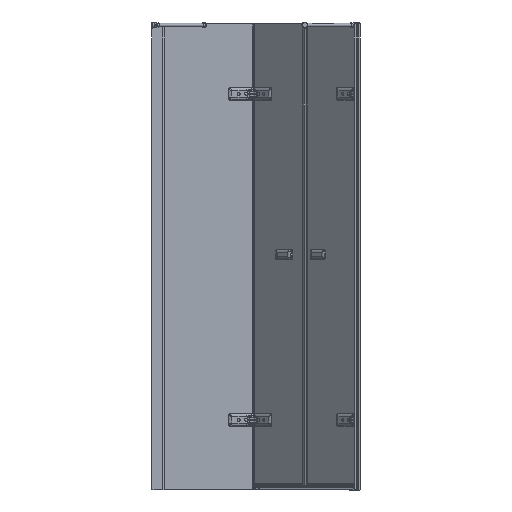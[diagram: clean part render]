
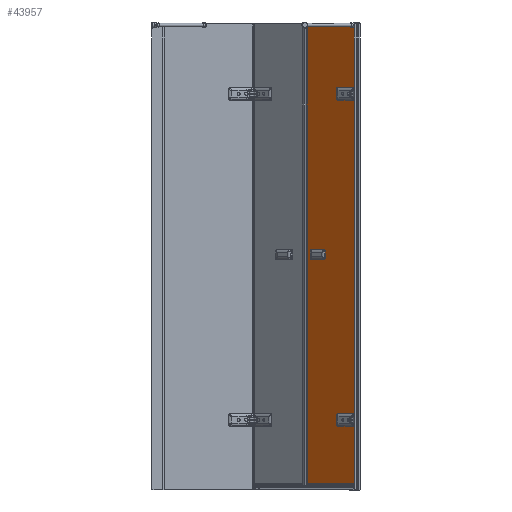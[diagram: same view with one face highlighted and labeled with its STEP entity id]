
A CAD part, left-side view. The second image highlights one B-rep face of the part: STEP entity #43957.
In plain terms, the highlighted planar face has unit normal (-0.707, 0.707, 0).
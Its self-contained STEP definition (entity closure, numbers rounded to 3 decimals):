
#2488=LINE($,#97277,#6210);
#3023=LINE($,#99700,#6745);
#3309=LINE($,#100955,#7031);
#3952=LINE($,#103350,#7674);
#3992=LINE($,#103482,#7714);
#4034=LINE($,#103581,#7756);
#4045=LINE($,#103613,#7767);
#4063=LINE($,#103661,#7785);
#4064=LINE($,#103665,#7786);
#4065=LINE($,#103667,#7787);
#4066=LINE($,#103669,#7788);
#4067=LINE($,#103673,#7789);
#6210=VECTOR($,#54137,256.4);
#6745=VECTOR($,#55604,1362.);
#7031=VECTOR($,#56390,292.989);
#7674=VECTOR($,#58043,30.046);
#7714=VECTOR($,#58159,281.);
#7756=VECTOR($,#58281,30.046);
#7767=VECTOR($,#58312,292.989);
#7785=VECTOR($,#58368,30.046);
#7786=VECTOR($,#58371,18.);
#7787=VECTOR($,#58374,1975.4);
#7788=VECTOR($,#58375,30.046);
#7789=VECTOR($,#58378,18.);
#9531=FACE_BOUND($,#14140,.T.);
#9532=FACE_BOUND($,#14141,.T.);
#9533=FACE_BOUND($,#14142,.T.);
#14140=EDGE_LOOP($,(#36822));
#14141=EDGE_LOOP($,(#36823));
#14142=EDGE_LOOP($,(#36824,#36825,#36826,#36827,#36828,#36829,#36830,#36831,
#36832,#36833,#36834,#36835,#36836,#36837,#36838,#36839));
#15314=CIRCLE($,#46152,6.5);
#15510=CIRCLE($,#46636,6.5);
#15826=CIRCLE($,#47680,10.);
#15827=CIRCLE($,#47681,10.);
#15828=CIRCLE($,#47682,10.);
#15829=CIRCLE($,#47683,10.);
#18031=VERTEX_POINT($,#96129);
#18234=VERTEX_POINT($,#97274);
#18235=VERTEX_POINT($,#97276);
#18616=VERTEX_POINT($,#98793);
#18775=VERTEX_POINT($,#99698);
#18776=VERTEX_POINT($,#99699);
#19036=VERTEX_POINT($,#100952);
#19037=VERTEX_POINT($,#100954);
#19523=VERTEX_POINT($,#103349);
#19543=VERTEX_POINT($,#103481);
#19560=VERTEX_POINT($,#103580);
#19571=VERTEX_POINT($,#103612);
#19582=VERTEX_POINT($,#103660);
#19583=VERTEX_POINT($,#103662);
#19584=VERTEX_POINT($,#103664);
#19585=VERTEX_POINT($,#103668);
#19586=VERTEX_POINT($,#103670);
#19587=VERTEX_POINT($,#103672);
#22918=EDGE_CURVE($,#18031,#18031,#15314,.T.);
#23229=EDGE_CURVE($,#18235,#18234,#2488,.T.);
#23772=EDGE_CURVE($,#18616,#18616,#15510,.T.);
#24036=EDGE_CURVE($,#18775,#18776,#3023,.T.);
#24457=EDGE_CURVE($,#19036,#19037,#3309,.T.);
#25309=EDGE_CURVE($,#19523,#18775,#3952,.T.);
#25359=EDGE_CURVE($,#19543,#19037,#3992,.T.);
#25405=EDGE_CURVE($,#19560,#19543,#4034,.T.);
#25420=EDGE_CURVE($,#18235,#19571,#4045,.T.);
#25446=EDGE_CURVE($,#18776,#19582,#4063,.T.);
#25447=EDGE_CURVE($,#19583,#19582,#15826,.T.);
#25448=EDGE_CURVE($,#19583,#19584,#4064,.T.);
#25449=EDGE_CURVE($,#19560,#19584,#15827,.T.);
#25450=EDGE_CURVE($,#19571,#19036,#4065,.T.);
#25451=EDGE_CURVE($,#18234,#19585,#4066,.T.);
#25452=EDGE_CURVE($,#19586,#19585,#15828,.T.);
#25453=EDGE_CURVE($,#19586,#19587,#4067,.T.);
#25454=EDGE_CURVE($,#19523,#19587,#15829,.T.);
#36822=ORIENTED_EDGE($,*,*,#22918,.T.);
#36823=ORIENTED_EDGE($,*,*,#23772,.T.);
#36824=ORIENTED_EDGE($,*,*,#24036,.T.);
#36825=ORIENTED_EDGE($,*,*,#25446,.T.);
#36826=ORIENTED_EDGE($,*,*,#25447,.F.);
#36827=ORIENTED_EDGE($,*,*,#25448,.T.);
#36828=ORIENTED_EDGE($,*,*,#25449,.F.);
#36829=ORIENTED_EDGE($,*,*,#25405,.T.);
#36830=ORIENTED_EDGE($,*,*,#25359,.T.);
#36831=ORIENTED_EDGE($,*,*,#24457,.F.);
#36832=ORIENTED_EDGE($,*,*,#25450,.F.);
#36833=ORIENTED_EDGE($,*,*,#25420,.F.);
#36834=ORIENTED_EDGE($,*,*,#23229,.T.);
#36835=ORIENTED_EDGE($,*,*,#25451,.T.);
#36836=ORIENTED_EDGE($,*,*,#25452,.F.);
#36837=ORIENTED_EDGE($,*,*,#25453,.T.);
#36838=ORIENTED_EDGE($,*,*,#25454,.F.);
#36839=ORIENTED_EDGE($,*,*,#25309,.T.);
#39574=PLANE($,#47679);
#43957=ADVANCED_FACE($,(#9531,#9532,#9533),#39574,.T.);
#46152=AXIS2_PLACEMENT_3D($,#96130,#53561,#53562);
#46636=AXIS2_PLACEMENT_3D($,#98794,#55079,#55080);
#47679=AXIS2_PLACEMENT_3D($,#103659,#58366,#58367);
#47680=AXIS2_PLACEMENT_3D($,#103663,#58369,#58370);
#47681=AXIS2_PLACEMENT_3D($,#103666,#58372,#58373);
#47682=AXIS2_PLACEMENT_3D($,#103671,#58376,#58377);
#47683=AXIS2_PLACEMENT_3D($,#103674,#58379,#58380);
#53561=DIRECTION('center_axis',(0.707,-0.707,0.));
#53562=DIRECTION('ref_axis',(-0.707,-0.707,0.));
#54137=DIRECTION($,(0.,0.,1.));
#55079=DIRECTION('center_axis',(0.707,-0.707,0.));
#55080=DIRECTION('ref_axis',(-0.707,-0.707,0.));
#55604=DIRECTION($,(0.,0.,1.));
#56390=DIRECTION($,(-0.707,-0.707,0.));
#58043=DIRECTION($,(-0.707,-0.707,0.));
#58159=DIRECTION($,(0.,0.,1.));
#58281=DIRECTION($,(-0.707,-0.707,0.));
#58312=DIRECTION($,(0.707,0.707,0.));
#58366=DIRECTION('center_axis',(-0.707,0.707,0.));
#58367=DIRECTION('ref_axis',(-0.707,-0.707,0.));
#58368=DIRECTION($,(0.707,0.707,0.));
#58369=DIRECTION('center_axis',(-0.707,0.707,0.));
#58370=DIRECTION('ref_axis',(0.5,0.5,-0.707));
#58371=DIRECTION($,(0.,0.,1.));
#58372=DIRECTION('center_axis',(-0.707,0.707,0.));
#58373=DIRECTION('ref_axis',(0.5,0.5,0.707));
#58374=DIRECTION($,(0.,0.,1.));
#58375=DIRECTION($,(0.707,0.707,0.));
#58376=DIRECTION('center_axis',(-0.707,0.707,0.));
#58377=DIRECTION('ref_axis',(0.5,0.5,-0.707));
#58378=DIRECTION($,(0.,0.,1.));
#58379=DIRECTION('center_axis',(-0.707,0.707,0.));
#58380=DIRECTION('ref_axis',(0.5,0.5,0.707));
#96129=CARTESIAN_POINT('',(943.139,-75.588,-214.056));
#96130=CARTESIAN_POINT('Origin',(938.543,-80.185,-214.056));
#97274=CARTESIAN_POINT('',(893.963,-124.765,-233.056));
#97276=CARTESIAN_POINT('',(893.963,-124.765,-489.456));
#97277=CARTESIAN_POINT($,(893.963,-124.765,-514.056));
#98793=CARTESIAN_POINT('',(943.139,-75.588,1185.944));
#98794=CARTESIAN_POINT('Origin',(938.543,-80.185,1185.944));
#99698=CARTESIAN_POINT('',(893.963,-124.765,-195.056));
#99699=CARTESIAN_POINT('',(893.963,-124.765,1166.944));
#99700=CARTESIAN_POINT($,(893.963,-124.765,-204.056));
#100952=CARTESIAN_POINT('',(1101.137,82.41,1485.944));
#100954=CARTESIAN_POINT('',(893.963,-124.765,1485.944));
#100955=CARTESIAN_POINT($,(1101.137,82.41,1485.944));
#103349=CARTESIAN_POINT('',(915.208,-103.519,-195.056));
#103350=CARTESIAN_POINT($,(996.859,-21.868,-195.056));
#103481=CARTESIAN_POINT('',(893.963,-124.765,1204.944));
#103482=CARTESIAN_POINT($,(893.963,-124.765,1485.944));
#103580=CARTESIAN_POINT('',(915.208,-103.519,1204.944));
#103581=CARTESIAN_POINT($,(996.859,-21.868,1204.944));
#103612=CARTESIAN_POINT('',(1101.137,82.41,-489.456));
#103613=CARTESIAN_POINT($,(892.581,-126.147,-489.456));
#103659=CARTESIAN_POINT('Origin',(1101.137,82.41,-494.056));
#103660=CARTESIAN_POINT('',(915.208,-103.519,1166.944));
#103661=CARTESIAN_POINT($,(1011.708,-7.019,1166.944));
#103662=CARTESIAN_POINT('',(922.279,-96.448,1176.944));
#103663=CARTESIAN_POINT('Origin',(915.208,-103.519,1176.944));
#103664=CARTESIAN_POINT('',(922.279,-96.448,1194.944));
#103665=CARTESIAN_POINT($,(922.279,-96.448,355.444));
#103666=CARTESIAN_POINT('Origin',(915.208,-103.519,1194.944));
#103667=CARTESIAN_POINT($,(1101.137,82.41,-494.056));
#103668=CARTESIAN_POINT('',(915.208,-103.519,-233.056));
#103669=CARTESIAN_POINT($,(1011.708,-7.019,-233.056));
#103670=CARTESIAN_POINT('',(922.279,-96.448,-223.056));
#103671=CARTESIAN_POINT('Origin',(915.208,-103.519,-223.056));
#103672=CARTESIAN_POINT('',(922.279,-96.448,-205.056));
#103673=CARTESIAN_POINT($,(922.279,-96.448,-344.556));
#103674=CARTESIAN_POINT('Origin',(915.208,-103.519,-205.056));
